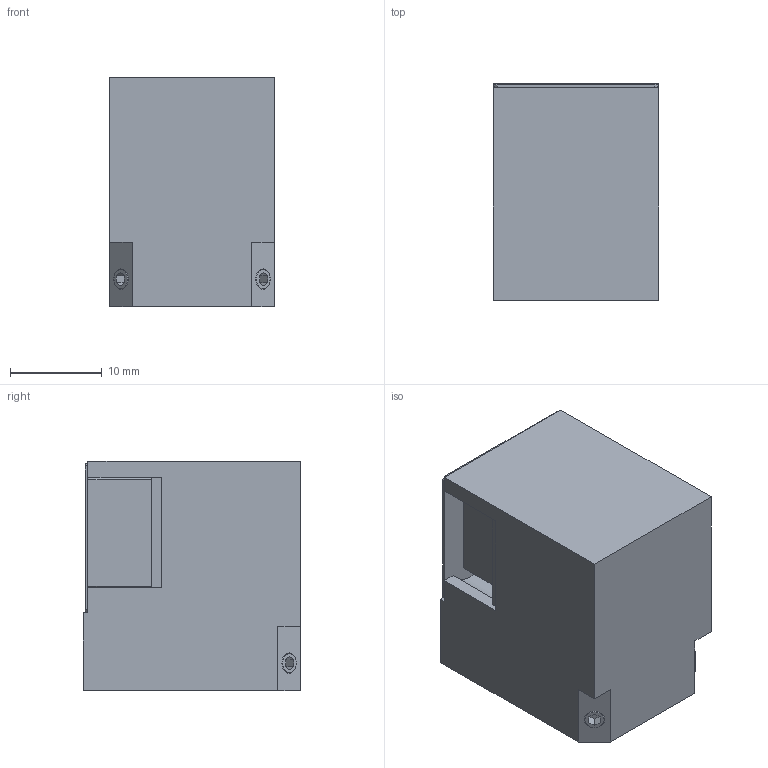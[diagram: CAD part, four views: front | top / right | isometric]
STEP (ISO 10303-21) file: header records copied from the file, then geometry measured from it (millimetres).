
FILE_DESCRIPTION (( 'STEP AP214' ), '1' );
FILE_NAME ('MML-PSV16R.STEP', '2026-02-24T02:09:37', ( '' ), ( '' ), 'SwSTEP 2.0', 'SolidWorks 2025', '' );
FILE_SCHEMA (( 'AUTOMOTIVE_DESIGN' ));
Length unit declared in the file: millimetre
Products named in the file (1): MML-PSV16R
Bounding box: 18 x 23.7 x 25 mm (x, y, z)
Volume: 7882.4 mm3; surface area: 4050 mm2
Topology: 1 solids, 1 shells, 100 faces, 274 edges, 181 vertices
Faces by surface type: plane 73, cylinder 19, cone 8
Entity records: 3290 total; most frequent: CARTESIAN_POINT 693, ORIENTED_EDGE 548, DIRECTION 519, EDGE_CURVE 274, LINE 201, VECTOR 201, VERTEX_POINT 181, AXIS2_PLACEMENT_3D 159
